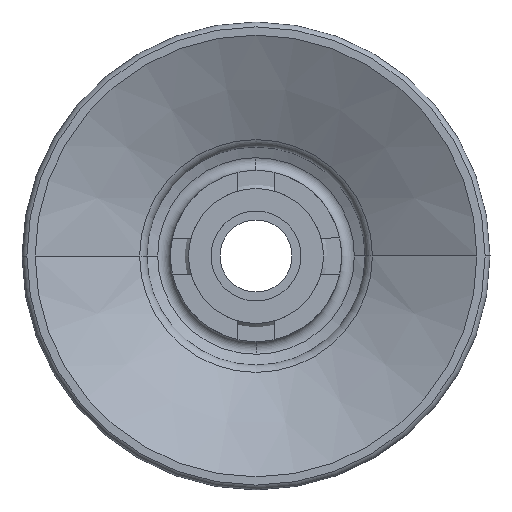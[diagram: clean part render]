
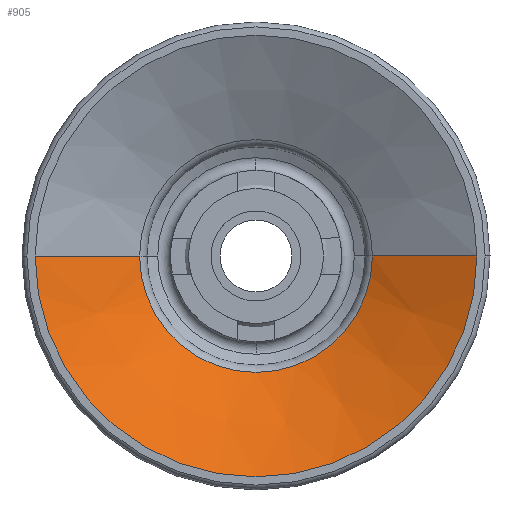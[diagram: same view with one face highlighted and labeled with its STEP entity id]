
A CAD part, front view. The second image highlights one B-rep face of the part: STEP entity #905.
In plain terms, the highlighted conical face has half-angle 62.925 degrees and reference radius 6.466 mm.
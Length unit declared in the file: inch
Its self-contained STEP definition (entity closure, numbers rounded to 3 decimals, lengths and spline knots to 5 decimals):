
#442 = EDGE_CURVE ( 'NONE', #3402, #1331, #508, .T. ) ;
#474 = CARTESIAN_POINT ( 'NONE',  ( 0., 0., -0.53219 ) ) ;
#508 = CIRCLE ( 'NONE', #2199, 0.25458 ) ;
#830 = EDGE_CURVE ( 'NONE', #1331, #3038, #1010, .T. ) ;
#905 = ADVANCED_FACE ( 'NONE', ( #1042 ), #1764, .F. ) ;
#931 = VECTOR ( 'NONE', #1556, 39.37008 ) ;
#1010 = LINE ( 'NONE', #2133, #931 ) ;
#1028 = ORIENTED_EDGE ( 'NONE', *, *, #442, .F. ) ;
#1033 = DIRECTION ( 'NONE',  ( 1., 0., 0. ) ) ;
#1042 = FACE_OUTER_BOUND ( 'NONE', #2584, .T. ) ;
#1262 = DIRECTION ( 'NONE',  ( 0., 0., -1. ) ) ;
#1331 = VERTEX_POINT ( 'NONE', #2389 ) ;
#1389 = DIRECTION ( 'NONE',  ( 0., 0., 1. ) ) ;
#1553 = LINE ( 'NONE', #1807, #1738 ) ;
#1556 = DIRECTION ( 'NONE',  ( -0.89, 0., -0.455 ) ) ;
#1580 = CIRCLE ( 'NONE', #3268, 0.48308 ) ;
#1738 = VECTOR ( 'NONE', #3194, 39.37008 ) ;
#1764 = CONICAL_SURFACE ( 'NONE', #3507, 0.25458, 1.098 ) ;
#1807 = CARTESIAN_POINT ( 'NONE',  ( 0.25458, 0., -0.41539 ) ) ;
#1879 = CARTESIAN_POINT ( 'NONE',  ( -0.48308, 0., -0.53219 ) ) ;
#2133 = CARTESIAN_POINT ( 'NONE',  ( -0.25458, 0., -0.41539 ) ) ;
#2151 = CARTESIAN_POINT ( 'NONE',  ( 0., 0., -0.41539 ) ) ;
#2199 = AXIS2_PLACEMENT_3D ( 'NONE', #2237, #3349, #2799 ) ;
#2237 = CARTESIAN_POINT ( 'NONE',  ( 0., 0., -0.41539 ) ) ;
#2293 = ORIENTED_EDGE ( 'NONE', *, *, #830, .F. ) ;
#2371 = CARTESIAN_POINT ( 'NONE',  ( 0.25458, 0., -0.41539 ) ) ;
#2389 = CARTESIAN_POINT ( 'NONE',  ( -0.25458, 0., -0.41539 ) ) ;
#2439 = VERTEX_POINT ( 'NONE', #3429 ) ;
#2584 = EDGE_LOOP ( 'NONE', ( #1028, #2911, #3465, #2293 ) ) ;
#2596 = EDGE_CURVE ( 'NONE', #3402, #2439, #1553, .T. ) ;
#2799 = DIRECTION ( 'NONE',  ( 1., 0., 0. ) ) ;
#2911 = ORIENTED_EDGE ( 'NONE', *, *, #2596, .T. ) ;
#3038 = VERTEX_POINT ( 'NONE', #1879 ) ;
#3194 = DIRECTION ( 'NONE',  ( 0.89, 0., -0.455 ) ) ;
#3268 = AXIS2_PLACEMENT_3D ( 'NONE', #474, #1389, #1033 ) ;
#3349 = DIRECTION ( 'NONE',  ( 0., 0., -1. ) ) ;
#3402 = VERTEX_POINT ( 'NONE', #2371 ) ;
#3429 = CARTESIAN_POINT ( 'NONE',  ( 0.48308, 0., -0.53219 ) ) ;
#3465 = ORIENTED_EDGE ( 'NONE', *, *, #3588, .F. ) ;
#3466 = DIRECTION ( 'NONE',  ( -1., 0., 0. ) ) ;
#3507 = AXIS2_PLACEMENT_3D ( 'NONE', #2151, #1262, #3466 ) ;
#3588 = EDGE_CURVE ( 'NONE', #3038, #2439, #1580, .T. ) ;
